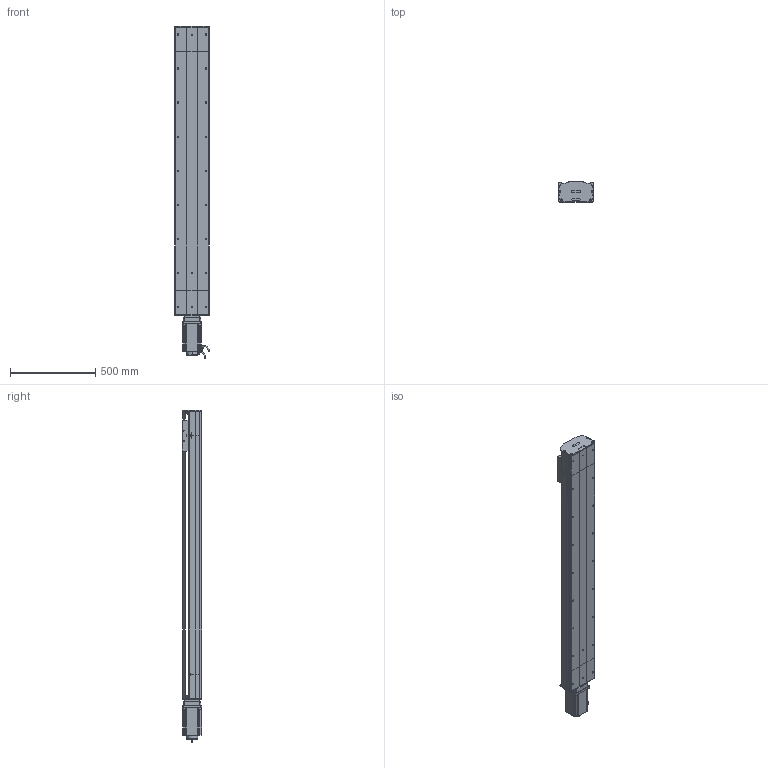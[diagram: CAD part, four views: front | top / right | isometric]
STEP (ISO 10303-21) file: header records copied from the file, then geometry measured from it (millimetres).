
FILE_DESCRIPTION (( 'STEP AP214' ), '1' );
FILE_NAME ('D20 TSH MD S1400.STEP', '2010-06-30T08:45:03', ( 'Conseil Régional Haute-Normandie' ), ( 'Conseil Régional Haute-Normandie' ), 'SwSTEP 2.0', 'SolidWorks 2010', '' );
FILE_SCHEMA (( 'AUTOMOTIVE_DESIGN' ));
Length unit declared in the file: millimetre
Products named in the file (33): Moteur motionking 110BLDC170A-640x; corpl head MD D20_Default; couvercle D20 S1400_Default; avant 110BLDC170A-630x; codeur 110BLDC170A-630x; Arbre+rail head D20; corp D20 S1400_Default; couvercle head l D20_Default; corps 110BLDC170A-630x; D20 TSH MD S1400; head MD D20_Default; plaque de  bout head MD D20_Default; Plaque racord D20_Default; rail + arbre  D20 S1400; course D20 L1400_Default; Conecteur2_Default; vis M8 L12_Default; corpl tail D20_Default; tete d''axe bas D20; tete d''axe haut D20; vis M5 L12_Default; vis M5 L8 90°_Default; 2 vis M5 L12_Default; couvercle tail D20_Default; plaque de  bout tail D20_Default; Conecteur_Default; vis M5 L25_Default; Arbre+rail tail D20; Chariot D20; chariot D20S_Default; guide D20; clavette; tail D20 S_Default
Assembly tree (56 placements, depth 4):
  D20 TSH MD S1400
    chariot D20S_Default
      vis M5 L12_Default  x4
      guide D20  x2
      Chariot D20
    tail D20 S_Default
      vis M5 L25_Default  x2
      2 vis M5 L12_Default  x4
      couvercle tail D20_Default
      plaque de  bout tail D20_Default
      vis M5 L8 90°_Default  x2
      tete d''axe haut D20
      corpl tail D20_Default
      tete d''axe bas D20
      Arbre+rail tail D20
    course D20 L1400_Default
      corp D20 S1400_Default
      couvercle D20 S1400_Default
      rail + arbre  D20 S1400
    head MD D20_Default
      vis M5 L12_Default  x4
      vis M8 L12_Default  x4
      2 vis M5 L12_Default  x6
      vis M5 L25_Default  x2
      Moteur motionking 110BLDC170A-640x
        corps 110BLDC170A-630x
        avant 110BLDC170A-630x
        Conecteur2_Default
        codeur 110BLDC170A-630x
        clavette
        Conecteur_Default
      corpl head MD D20_Default
      Arbre+rail head D20
      couvercle head l D20_Default
      plaque de  bout head MD D20_Default
      Plaque racord D20_Default
Bounding box: 206 x 115.7 x 1948.5 mm (x, y, z)
Volume: 15359904.2 mm3; surface area: 3281139.1 mm2
Topology: 81 solids, 81 shells, 2264 faces, 5751 edges, 3725 vertices
Faces by surface type: plane 1344, cylinder 644, bspline 136, torus 73, cone 67
Entity records: 75414 total; most frequent: CARTESIAN_POINT 25307, ORIENTED_EDGE 8906, DIRECTION 8272, EDGE_CURVE 4453, VERTEX_POINT 2937, VECTOR 2924, LINE 2924, AXIS2_PLACEMENT_3D 2674
